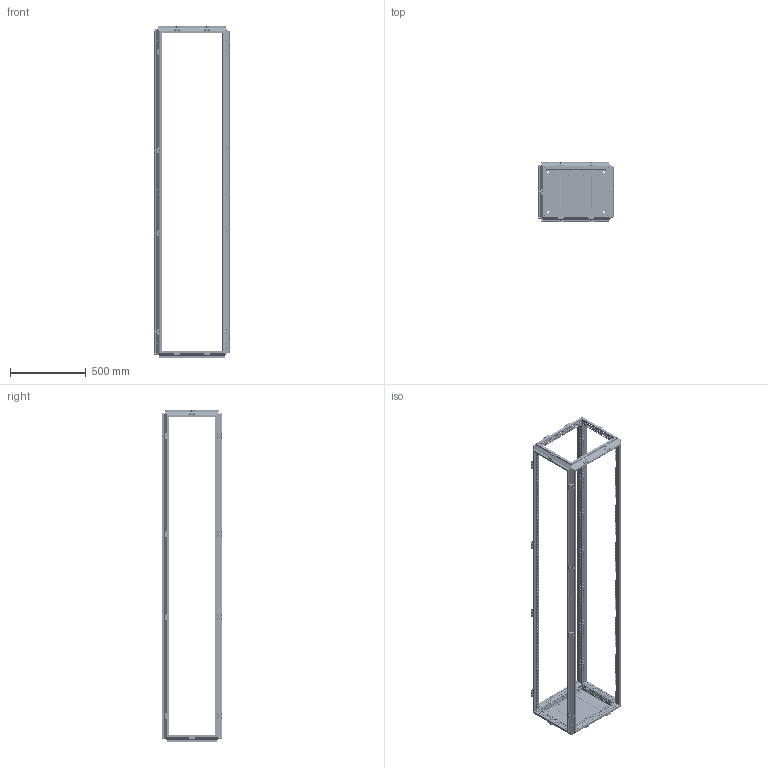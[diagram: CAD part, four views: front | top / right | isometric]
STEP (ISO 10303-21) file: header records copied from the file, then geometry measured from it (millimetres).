
FILE_DESCRIPTION(('STEP AP203'), '1');
FILE_NAME('3000 忺謤僔 捘', '', ('UNSPECIFIED'), ('UNSPECIFIED'), 'C3D Converter', 'C3D Toolkit', '');
FILE_SCHEMA(('CONFIG_CONTROL_DESIGN'));
Length unit declared in the file: millimetre
Products named in the file (12): 3000.220.40.50 СБ; 3000; 3007.75; 3007.200; 3009.04; 3009.04.01; 3009.04.2; 3009.04.01.2
Assembly tree (120 placements, depth 3):
  3000.220.40.50 СБ
    3000
    (unnamed)  x80
    3007.75  x2
    (unnamed)  x8
    3007.200
    3009.04  x6
      3009.04.01
      (unnamed)
      (unnamed)
    3009.04.2  x13
      3009.04.01.2
      (unnamed)
      (unnamed)
Bounding box: 497 x 397 x 2198.5 mm (x, y, z)
Volume: 3168148 mm3; surface area: 4243243.8 mm2
Topology: 197 solids, 197 shells, 15445 faces, 43417 edges, 28642 vertices
Faces by surface type: plane 10855, cylinder 3786, cone 532, torus 224, bspline 48
Full cylindrical faces by diameter (mm): 4.134 x112, 4.5 x1768, 4.8 x8, 5 x118, 5.8 x32, 6.8 x160, 7 x80, 7.5 x38, 8 x80, 9.2 x38, 10.106 x8, 14 x4
Entity records: 362186 total; most frequent: CARTESIAN_POINT 66443, ORIENTED_EDGE 58350, DIRECTION 55177, EDGE_CURVE 29175, LINE 23999, VECTOR 23999, VERTEX_POINT 20530, EDGE_LOOP 19777
